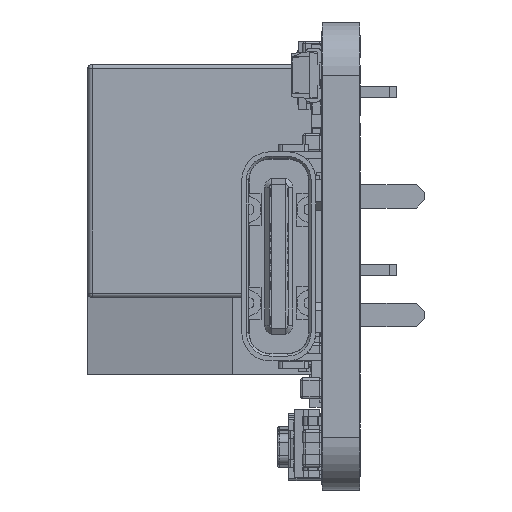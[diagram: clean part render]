
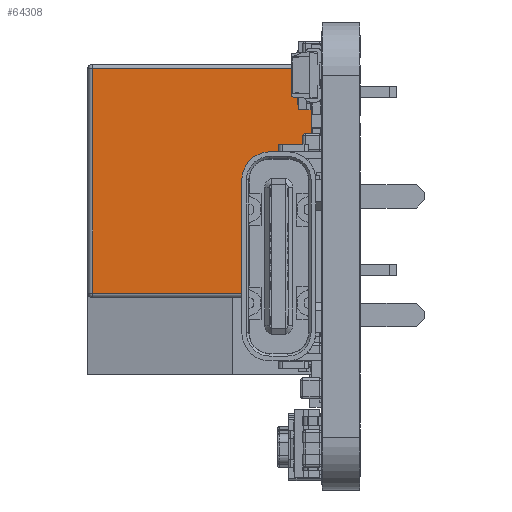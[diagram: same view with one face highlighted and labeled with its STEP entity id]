
A CAD part, left-side view. The second image highlights one B-rep face of the part: STEP entity #64308.
In plain terms, the highlighted planar face has unit normal (-1, 0, 0).
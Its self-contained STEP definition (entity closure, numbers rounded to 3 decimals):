
#26452 = DIRECTION ( 'NONE',  ( 0., 0., -1. ) ) ;
#26503 = CARTESIAN_POINT ( 'NONE',  ( -10., 10., -5. ) ) ;
#26517 = PLANE ( 'NONE',  #30566 ) ;
#26531 = DIRECTION ( 'NONE',  ( 1., 0., 0. ) ) ;
#29038 = FACE_OUTER_BOUND ( 'NONE', #94746, .T. ) ;
#30566 = AXIS2_PLACEMENT_3D ( 'NONE', #26503, #26531, #26452 ) ;
#64308 = ADVANCED_FACE ( 'NONE', ( #29038 ), #26517, .F. ) ;
#94746 = EDGE_LOOP ( 'NONE', ( #121958, #121995, #121975, #121929, #119036, #122002, #121906, #121946 ) ) ;
#106581 = EDGE_CURVE ( 'NONE', #225820, #225686, #207575, .T. ) ;
#106608 = EDGE_CURVE ( 'NONE', #225757, #225656, #207619, .T. ) ;
#106626 = EDGE_CURVE ( 'NONE', #225814, #225752, #207693, .T. ) ;
#106642 = EDGE_CURVE ( 'NONE', #225787, #225820, #207788, .T. ) ;
#106665 = EDGE_CURVE ( 'NONE', #225656, #225784, #207926, .T. ) ;
#106688 = EDGE_CURVE ( 'NONE', #225784, #225814, #207888, .T. ) ;
#106732 = EDGE_CURVE ( 'NONE', #225686, #225757, #207995, .T. ) ;
#106773 = EDGE_CURVE ( 'NONE', #225787, #225752, #208203, .T. ) ;
#119036 = ORIENTED_EDGE ( 'NONE', *, *, #106773, .F. ) ;
#121906 = ORIENTED_EDGE ( 'NONE', *, *, #106581, .T. ) ;
#121929 = ORIENTED_EDGE ( 'NONE', *, *, #106626, .T. ) ;
#121946 = ORIENTED_EDGE ( 'NONE', *, *, #106732, .T. ) ;
#121958 = ORIENTED_EDGE ( 'NONE', *, *, #106608, .T. ) ;
#121975 = ORIENTED_EDGE ( 'NONE', *, *, #106688, .T. ) ;
#121995 = ORIENTED_EDGE ( 'NONE', *, *, #106665, .T. ) ;
#122002 = ORIENTED_EDGE ( 'NONE', *, *, #106642, .T. ) ;
#207525 = VECTOR ( 'NONE', #212668, 1000. ) ;
#207575 = LINE ( 'NONE', #212102, #207590 ) ;
#207590 = VECTOR ( 'NONE', #212273, 1000. ) ;
#207619 = LINE ( 'NONE', #212651, #207525 ) ;
#207693 = LINE ( 'NONE', #213124, #207733 ) ;
#207721 = VECTOR ( 'NONE', #213059, 1000. ) ;
#207733 = VECTOR ( 'NONE', #213020, 1000. ) ;
#207788 = LINE ( 'NONE', #213057, #207721 ) ;
#207840 = VECTOR ( 'NONE', #213382, 1000. ) ;
#207888 = LINE ( 'NONE', #209576, #207920 ) ;
#207920 = VECTOR ( 'NONE', #209575, 1000. ) ;
#207926 = LINE ( 'NONE', #213378, #207840 ) ;
#207995 = LINE ( 'NONE', #216673, #208001 ) ;
#208001 = VECTOR ( 'NONE', #216639, 1000. ) ;
#208093 = VECTOR ( 'NONE', #216719, 1000. ) ;
#208203 = LINE ( 'NONE', #216727, #208093 ) ;
#209575 = DIRECTION ( 'NONE',  ( 0., 0., 1. ) ) ;
#209576 = CARTESIAN_POINT ( 'NONE',  ( -10., 0.3, -5. ) ) ;
#212102 = CARTESIAN_POINT ( 'NONE',  ( -10., 0.3, -5. ) ) ;
#212273 = DIRECTION ( 'NONE',  ( 0., 0., 1. ) ) ;
#212651 = CARTESIAN_POINT ( 'NONE',  ( -10., 9.8, -5. ) ) ;
#212668 = DIRECTION ( 'NONE',  ( 0., 0., -1. ) ) ;
#213020 = DIRECTION ( 'NONE',  ( 0., 1., 0. ) ) ;
#213057 = CARTESIAN_POINT ( 'NONE',  ( -10., 10., 1.5 ) ) ;
#213059 = DIRECTION ( 'NONE',  ( 0., -1., 0. ) ) ;
#213124 = CARTESIAN_POINT ( 'NONE',  ( -10., 10., -1.5 ) ) ;
#213378 = CARTESIAN_POINT ( 'NONE',  ( -10., 10., -4.8 ) ) ;
#213382 = DIRECTION ( 'NONE',  ( 0., -1., 0. ) ) ;
#216639 = DIRECTION ( 'NONE',  ( 0., 1., 0. ) ) ;
#216673 = CARTESIAN_POINT ( 'NONE',  ( -10., 10., 4.8 ) ) ;
#216719 = DIRECTION ( 'NONE',  ( 0., 0., -1. ) ) ;
#216727 = CARTESIAN_POINT ( 'NONE',  ( -10., 1.8, -5. ) ) ;
#225656 = VERTEX_POINT ( 'NONE', #252621 ) ;
#225686 = VERTEX_POINT ( 'NONE', #252718 ) ;
#225752 = VERTEX_POINT ( 'NONE', #252659 ) ;
#225757 = VERTEX_POINT ( 'NONE', #252638 ) ;
#225784 = VERTEX_POINT ( 'NONE', #252676 ) ;
#225787 = VERTEX_POINT ( 'NONE', #252633 ) ;
#225814 = VERTEX_POINT ( 'NONE', #252682 ) ;
#225820 = VERTEX_POINT ( 'NONE', #252691 ) ;
#252621 = CARTESIAN_POINT ( 'NONE',  ( -10., 9.8, -4.8 ) ) ;
#252633 = CARTESIAN_POINT ( 'NONE',  ( -10., 1.8, 1.5 ) ) ;
#252638 = CARTESIAN_POINT ( 'NONE',  ( -10., 9.8, 4.8 ) ) ;
#252659 = CARTESIAN_POINT ( 'NONE',  ( -10., 1.8, -1.5 ) ) ;
#252676 = CARTESIAN_POINT ( 'NONE',  ( -10., 0.3, -4.8 ) ) ;
#252682 = CARTESIAN_POINT ( 'NONE',  ( -10., 0.3, -1.5 ) ) ;
#252691 = CARTESIAN_POINT ( 'NONE',  ( -10., 0.3, 1.5 ) ) ;
#252718 = CARTESIAN_POINT ( 'NONE',  ( -10., 0.3, 4.8 ) ) ;
